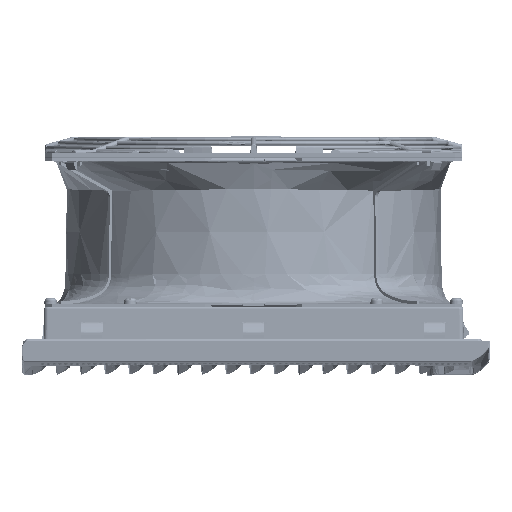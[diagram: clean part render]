
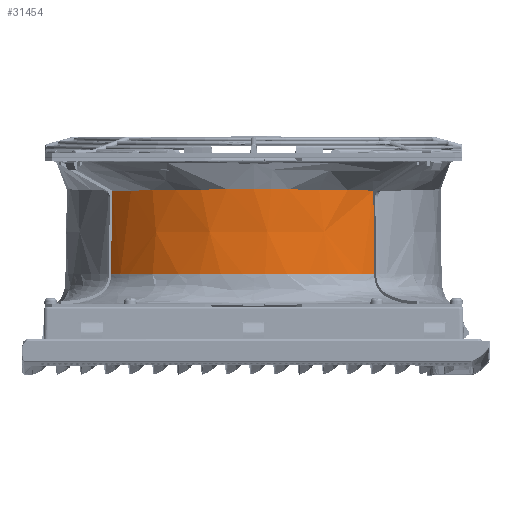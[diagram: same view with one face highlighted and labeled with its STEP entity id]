
A CAD part, left-side view. The second image highlights one B-rep face of the part: STEP entity #31454.
In plain terms, the highlighted conical face has half-angle 1 degrees and reference radius 129 mm.
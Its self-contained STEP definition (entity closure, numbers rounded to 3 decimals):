
#12271=B_SPLINE_CURVE_WITH_KNOTS('',3,(#311783,#311784,#311785,#311786,#311787,
#311788,#311789,#311790,#311791,#311792,#311793,#311794),.UNSPECIFIED.,.F.,
 .F.,(4,2,2,2,2,4),(0.,0.25,0.5,0.75,
0.875,1.),.UNSPECIFIED.);
#12272=B_SPLINE_CURVE_WITH_KNOTS('',3,(#311797,#311798,#311799,#311800),
 .UNSPECIFIED.,.F.,.F.,(4,4),(0.,1.),.UNSPECIFIED.);
#12273=B_SPLINE_CURVE_WITH_KNOTS('',3,(#311802,#311803,#311804,#311805),
 .UNSPECIFIED.,.F.,.F.,(4,4),(0.,1.),.UNSPECIFIED.);
#12274=B_SPLINE_CURVE_WITH_KNOTS('',3,(#311807,#311808,#311809,#311810),
 .UNSPECIFIED.,.F.,.F.,(4,4),(0.,1.),.UNSPECIFIED.);
#12275=B_SPLINE_CURVE_WITH_KNOTS('',3,(#311812,#311813,#311814,#311815),
 .UNSPECIFIED.,.F.,.F.,(4,4),(0.,1.),.UNSPECIFIED.);
#12276=B_SPLINE_CURVE_WITH_KNOTS('',3,(#311817,#311818,#311819,#311820,#311821,
#311822,#311823,#311824,#311825,#311826),.UNSPECIFIED.,.F.,.F.,(4,2,2,2,
4),(0.,0.25,0.5,0.75,1.),.UNSPECIFIED.);
#12277=B_SPLINE_CURVE_WITH_KNOTS('',3,(#311828,#311829,#311830,#311831),
 .UNSPECIFIED.,.F.,.F.,(4,4),(0.,1.),.UNSPECIFIED.);
#12278=B_SPLINE_CURVE_WITH_KNOTS('',3,(#311833,#311834,#311835,#311836,#311837,
#311838,#311839,#311840,#311841,#311842),.UNSPECIFIED.,.F.,.F.,(4,2,2,2,
4),(0.,0.25,0.5,0.75,1.),.UNSPECIFIED.);
#17209=CONICAL_SURFACE('',#134579,129.,1.);
#24413=FACE_OUTER_BOUND('',#42611,.T.);
#31454=ADVANCED_FACE('',(#24413),#17209,.T.);
#42611=EDGE_LOOP('',(#72597,#72598,#72599,#72600,#72601,#72602,#72603,#72604));
#72597=ORIENTED_EDGE('',*,*,#109165,.T.);
#72598=ORIENTED_EDGE('',*,*,#109166,.F.);
#72599=ORIENTED_EDGE('',*,*,#109167,.T.);
#72600=ORIENTED_EDGE('',*,*,#109168,.F.);
#72601=ORIENTED_EDGE('',*,*,#109169,.F.);
#72602=ORIENTED_EDGE('',*,*,#109170,.T.);
#72603=ORIENTED_EDGE('',*,*,#109171,.T.);
#72604=ORIENTED_EDGE('',*,*,#109172,.T.);
#92112=VERTEX_POINT('',#311795);
#92113=VERTEX_POINT('',#311796);
#92114=VERTEX_POINT('',#311801);
#92115=VERTEX_POINT('',#311806);
#92116=VERTEX_POINT('',#311811);
#92117=VERTEX_POINT('',#311816);
#92118=VERTEX_POINT('',#311827);
#92119=VERTEX_POINT('',#311832);
#109165=EDGE_CURVE('',#92112,#92113,#12271,.T.);
#109166=EDGE_CURVE('',#92114,#92113,#12272,.T.);
#109167=EDGE_CURVE('',#92114,#92115,#12273,.T.);
#109168=EDGE_CURVE('',#92116,#92115,#12274,.T.);
#109169=EDGE_CURVE('',#92117,#92116,#12275,.T.);
#109170=EDGE_CURVE('',#92117,#92118,#12276,.T.);
#109171=EDGE_CURVE('',#92118,#92119,#12277,.T.);
#109172=EDGE_CURVE('',#92119,#92112,#12278,.T.);
#134579=AXIS2_PLACEMENT_3D('',#311843,#154705,#154706);
#154705=DIRECTION('',(0.,0.,1.));
#154706=DIRECTION('',(1.,0.,0.));
#311783=CARTESIAN_POINT('',(-771.315,132.105,-92.965));
#311784=CARTESIAN_POINT('',(-771.315,141.414,-92.965));
#311785=CARTESIAN_POINT('',(-772.31,150.553,-92.916));
#311786=CARTESIAN_POINT('',(-776.213,168.506,-92.716));
#311787=CARTESIAN_POINT('',(-779.177,177.411,-92.567));
#311788=CARTESIAN_POINT('',(-786.832,194.15,-92.297));
#311789=CARTESIAN_POINT('',(-791.513,202.047,-92.175));
#311790=CARTESIAN_POINT('',(-799.844,213.168,-92.031));
#311791=CARTESIAN_POINT('',(-802.839,216.745,-92.007));
#311792=CARTESIAN_POINT('',(-809.127,223.483,-91.987));
#311793=CARTESIAN_POINT('',(-812.435,226.667,-91.992));
#311794=CARTESIAN_POINT('',(-815.905,229.669,-92.013));
#311795=CARTESIAN_POINT('',(-771.315,132.105,-92.965));
#311796=CARTESIAN_POINT('',(-815.905,229.669,-92.013));
#311797=CARTESIAN_POINT('',(-815.251,230.439,-34.142));
#311798=CARTESIAN_POINT('',(-815.469,230.182,-53.433));
#311799=CARTESIAN_POINT('',(-815.687,229.925,-72.723));
#311800=CARTESIAN_POINT('',(-815.905,229.669,-92.013));
#311801=CARTESIAN_POINT('',(-815.251,230.439,-34.142));
#311802=CARTESIAN_POINT('',(-815.251,230.439,-34.142));
#311803=CARTESIAN_POINT('',(-814.949,230.177,-34.142));
#311804=CARTESIAN_POINT('',(-814.648,229.915,-34.142));
#311805=CARTESIAN_POINT('',(-814.348,229.65,-34.142));
#311806=CARTESIAN_POINT('',(-814.348,229.65,-34.142));
#311807=CARTESIAN_POINT('',(-808.367,224.036,-34.142));
#311808=CARTESIAN_POINT('',(-810.301,225.969,-34.142));
#311809=CARTESIAN_POINT('',(-812.296,227.842,-34.142));
#311810=CARTESIAN_POINT('',(-814.348,229.65,-34.142));
#311811=CARTESIAN_POINT('',(-808.367,224.036,-34.142));
#311812=CARTESIAN_POINT('',(-802.753,218.055,-34.142));
#311813=CARTESIAN_POINT('',(-804.561,220.107,-34.142));
#311814=CARTESIAN_POINT('',(-806.433,222.102,-34.142));
#311815=CARTESIAN_POINT('',(-808.367,224.036,-34.142));
#311816=CARTESIAN_POINT('',(-802.753,218.055,-34.142));
#311817=CARTESIAN_POINT('',(-802.753,218.055,-34.142));
#311818=CARTESIAN_POINT('',(-792.598,206.531,-34.142));
#311819=CARTESIAN_POINT('',(-784.51,193.192,-34.142));
#311820=CARTESIAN_POINT('',(-773.463,164.529,-34.142));
#311821=CARTESIAN_POINT('',(-770.507,149.212,-34.142));
#311822=CARTESIAN_POINT('',(-770.093,118.496,-34.142));
#311823=CARTESIAN_POINT('',(-772.637,103.105,-34.142));
#311824=CARTESIAN_POINT('',(-782.909,74.155,-34.142));
#311825=CARTESIAN_POINT('',(-790.635,60.603,-34.142));
#311826=CARTESIAN_POINT('',(-800.475,48.81,-34.142));
#311827=CARTESIAN_POINT('',(-800.475,48.81,-34.142));
#311828=CARTESIAN_POINT('',(-800.475,48.81,-34.142));
#311829=CARTESIAN_POINT('',(-800.732,49.028,-53.437));
#311830=CARTESIAN_POINT('',(-800.989,49.247,-72.731));
#311831=CARTESIAN_POINT('',(-801.245,49.465,-92.025));
#311832=CARTESIAN_POINT('',(-801.245,49.465,-92.025));
#311833=CARTESIAN_POINT('',(-801.245,49.465,-92.025));
#311834=CARTESIAN_POINT('',(-796.487,55.169,-92.069));
#311835=CARTESIAN_POINT('',(-792.174,61.355,-92.166));
#311836=CARTESIAN_POINT('',(-784.717,74.342,-92.364));
#311837=CARTESIAN_POINT('',(-781.593,81.085,-92.477));
#311838=CARTESIAN_POINT('',(-776.523,95.055,-92.697));
#311839=CARTESIAN_POINT('',(-774.569,102.344,-92.799));
#311840=CARTESIAN_POINT('',(-771.969,117.115,-92.935));
#311841=CARTESIAN_POINT('',(-771.315,124.573,-92.965));
#311842=CARTESIAN_POINT('',(-771.315,132.105,-92.965));
#311843=CARTESIAN_POINT('',(-900.298,132.105,-92.02));
